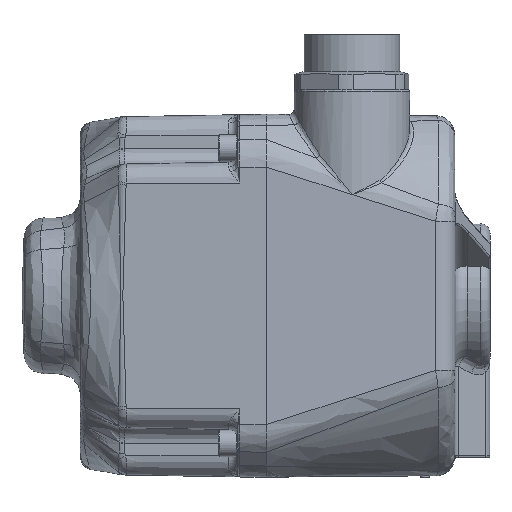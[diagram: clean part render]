
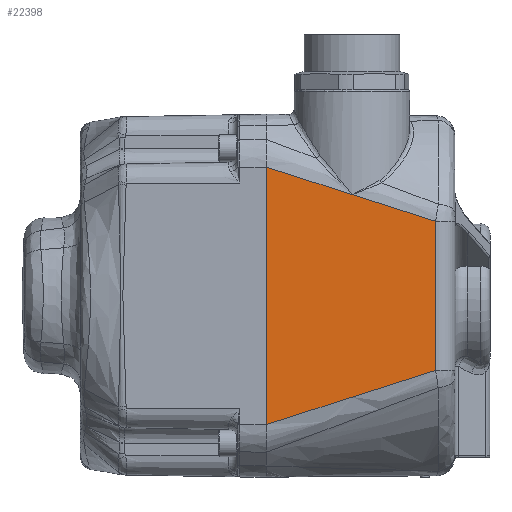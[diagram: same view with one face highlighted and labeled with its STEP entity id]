
A CAD part, left-side view. The second image highlights one B-rep face of the part: STEP entity #22398.
In plain terms, the highlighted planar face has unit normal (-1, -0.009, 0).
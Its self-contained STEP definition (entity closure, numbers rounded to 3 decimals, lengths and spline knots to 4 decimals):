
#2041=B_SPLINE_CURVE_WITH_KNOTS('',3,(#39209,#39210,#39211,#39212),
 .UNSPECIFIED.,.F.,.F.,(4,4),(0.,0.4561),.UNSPECIFIED.);
#2042=B_SPLINE_CURVE_WITH_KNOTS('',3,(#39213,#39214,#39215,#39216),
 .UNSPECIFIED.,.F.,.F.,(4,4),(0.4561,0.8973),
 .UNSPECIFIED.);
#3980=FACE_OUTER_BOUND('',#5508,.T.);
#5508=EDGE_LOOP('',(#17751,#17752,#17753,#17754,#17755,#17756));
#7583=LINE('',#35896,#8957);
#7599=LINE('',#37434,#8973);
#7600=LINE('',#37896,#8974);
#7616=LINE('',#38365,#8990);
#8957=VECTOR('',#27235,2.6366);
#8973=VECTOR('',#27381,0.8941);
#8974=VECTOR('',#27404,1.527);
#8990=VECTOR('',#27508,0.9245);
#10378=VERTEX_POINT('',#35893);
#10379=VERTEX_POINT('',#35895);
#10418=VERTEX_POINT('',#36136);
#10444=VERTEX_POINT('',#37433);
#10450=VERTEX_POINT('',#37852);
#10490=VERTEX_POINT('',#39208);
#12952=EDGE_CURVE('',#10379,#10378,#7583,.T.);
#13052=EDGE_CURVE('',#10418,#10444,#7599,.T.);
#13071=EDGE_CURVE('',#10444,#10450,#7600,.T.);
#13115=EDGE_CURVE('',#10379,#10418,#7616,.T.);
#13161=EDGE_CURVE('',#10378,#10490,#2041,.T.);
#13162=EDGE_CURVE('',#10490,#10450,#2042,.T.);
#17751=ORIENTED_EDGE('',*,*,#13071,.F.);
#17752=ORIENTED_EDGE('',*,*,#13052,.F.);
#17753=ORIENTED_EDGE('',*,*,#13115,.F.);
#17754=ORIENTED_EDGE('',*,*,#12952,.T.);
#17755=ORIENTED_EDGE('',*,*,#13161,.T.);
#17756=ORIENTED_EDGE('',*,*,#13162,.T.);
#21595=PLANE('',#23989);
#22398=ADVANCED_FACE('',(#3980),#21595,.T.);
#23989=AXIS2_PLACEMENT_3D('',#39207,#27604,#27605);
#27235=DIRECTION('',(0.,0.,-1.));
#27381=DIRECTION('',(0.009,-0.952,-0.305));
#27404=DIRECTION('',(0.,0.,-1.));
#27508=DIRECTION('',(0.009,-0.952,-0.305));
#27604=DIRECTION('center_axis',(-1.,-0.009,
0.));
#27605=DIRECTION('ref_axis',(0.,0.,1.));
#35893=CARTESIAN_POINT('',(-1.86,1.93,-1.3183));
#35895=CARTESIAN_POINT('',(-1.86,1.93,1.3183));
#35896=CARTESIAN_POINT('',(-1.86,1.93,1.3183));
#36136=CARTESIAN_POINT('',(-1.852,1.0496,1.0363));
#37433=CARTESIAN_POINT('',(-1.8443,0.1982,0.7635));
#37434=CARTESIAN_POINT('',(-1.86,1.93,1.3183));
#37852=CARTESIAN_POINT('',(-1.8443,0.1982,-0.7635));
#37896=CARTESIAN_POINT('',(-1.8443,0.1982,0.6592));
#38365=CARTESIAN_POINT('',(-1.86,1.93,1.3183));
#39207=CARTESIAN_POINT('Origin',(-1.86,1.93,1.3183));
#39208=CARTESIAN_POINT('',(-1.852,1.0496,-1.0363));
#39209=CARTESIAN_POINT('Ctrl Pts',(-1.86,1.93,-1.3183));
#39210=CARTESIAN_POINT('Ctrl Pts',(-1.8573,1.6365,-1.2243));
#39211=CARTESIAN_POINT('Ctrl Pts',(-1.8547,1.3431,-1.1303));
#39212=CARTESIAN_POINT('Ctrl Pts',(-1.852,1.0496,-1.0363));
#39213=CARTESIAN_POINT('Ctrl Pts',(-1.852,1.0496,-1.0363));
#39214=CARTESIAN_POINT('Ctrl Pts',(-1.8494,0.7658,
-0.9453));
#39215=CARTESIAN_POINT('Ctrl Pts',(-1.8469,0.482,
-0.8544));
#39216=CARTESIAN_POINT('Ctrl Pts',(-1.8443,0.1982,
-0.7635));
